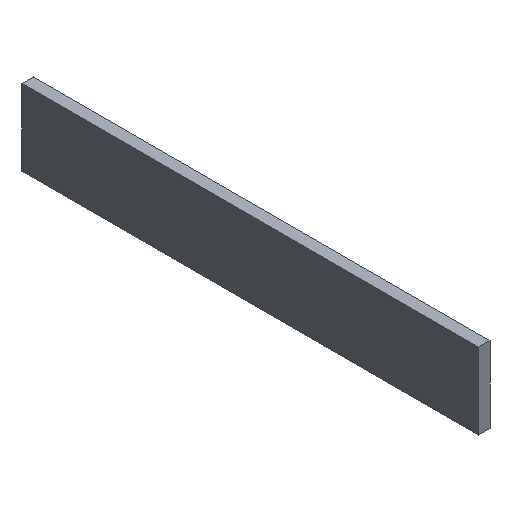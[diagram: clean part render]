
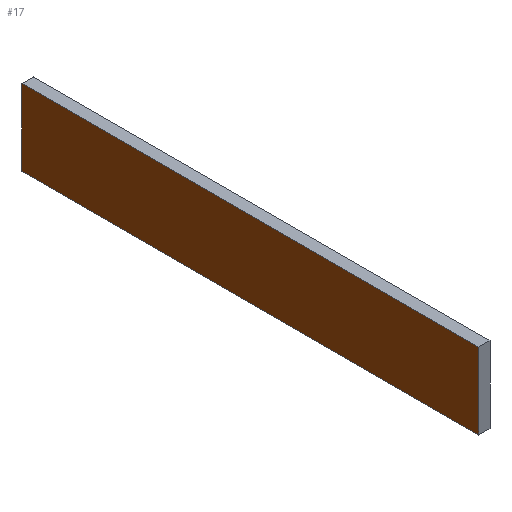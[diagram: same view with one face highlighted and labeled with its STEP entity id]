
A CAD part, isometric view. The second image highlights one B-rep face of the part: STEP entity #17.
In plain terms, the highlighted planar face has unit normal (-1, 0, 0).
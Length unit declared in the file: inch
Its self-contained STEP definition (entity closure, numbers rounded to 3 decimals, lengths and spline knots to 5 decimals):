
#17=ADVANCED_FACE('',(#23),#91,.T.);
#23=FACE_OUTER_BOUND('',#29,.T.);
#29=EDGE_LOOP('',(#44,#45,#46,#47));
#44=ORIENTED_EDGE('',*,*,#59,.T.);
#45=ORIENTED_EDGE('',*,*,#64,.T.);
#46=ORIENTED_EDGE('',*,*,#63,.F.);
#47=ORIENTED_EDGE('',*,*,#67,.F.);
#59=EDGE_CURVE('',#83,#80,#71,.T.);
#63=EDGE_CURVE('',#87,#84,#75,.T.);
#64=EDGE_CURVE('',#80,#84,#76,.T.);
#67=EDGE_CURVE('',#83,#87,#79,.T.);
#71=B_SPLINE_CURVE_WITH_KNOTS('',1,(#223,#224),.UNSPECIFIED.,.F.,.F.,(2,
2),(0.,48.),.UNSPECIFIED.);
#75=B_SPLINE_CURVE_WITH_KNOTS('',1,(#231,#232),.UNSPECIFIED.,.F.,.F.,(2,
2),(0.,48.),.UNSPECIFIED.);
#76=B_SPLINE_CURVE_WITH_KNOTS('',1,(#233,#234),.UNSPECIFIED.,.F.,.F.,(2,
2),(0.,8.),.UNSPECIFIED.);
#79=B_SPLINE_CURVE_WITH_KNOTS('',1,(#239,#240),.UNSPECIFIED.,.F.,.F.,(2,
2),(0.,8.),.UNSPECIFIED.);
#80=VERTEX_POINT('',#209);
#83=VERTEX_POINT('',#212);
#84=VERTEX_POINT('',#213);
#87=VERTEX_POINT('',#216);
#91=PLANE('',#188);
#188=AXIS2_PLACEMENT_3D('',#206,#197,$);
#197=DIRECTION('',(-1.,0.,0.));
#206=CARTESIAN_POINT('',(0.,48.,0.));
#209=CARTESIAN_POINT('',(0.,0.,0.));
#212=CARTESIAN_POINT('',(0.,48.,0.));
#213=CARTESIAN_POINT('',(0.,0.,8.));
#216=CARTESIAN_POINT('',(0.,48.,8.));
#223=CARTESIAN_POINT('',(0.,48.,0.));
#224=CARTESIAN_POINT('',(0.,0.,0.));
#231=CARTESIAN_POINT('',(0.,48.,8.));
#232=CARTESIAN_POINT('',(0.,0.,8.));
#233=CARTESIAN_POINT('',(0.,0.,0.));
#234=CARTESIAN_POINT('',(0.,0.,8.));
#239=CARTESIAN_POINT('',(0.,48.,0.));
#240=CARTESIAN_POINT('',(0.,48.,8.));
